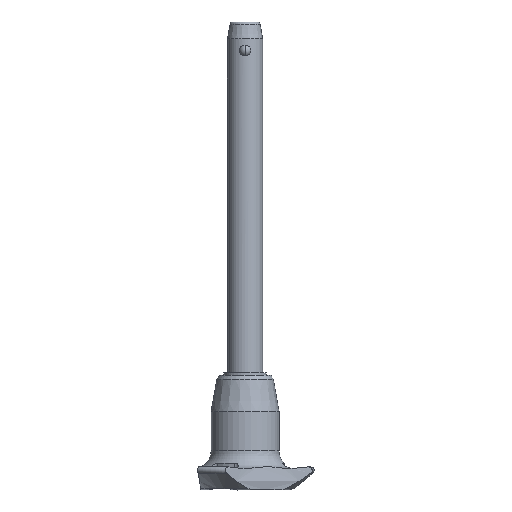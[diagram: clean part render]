
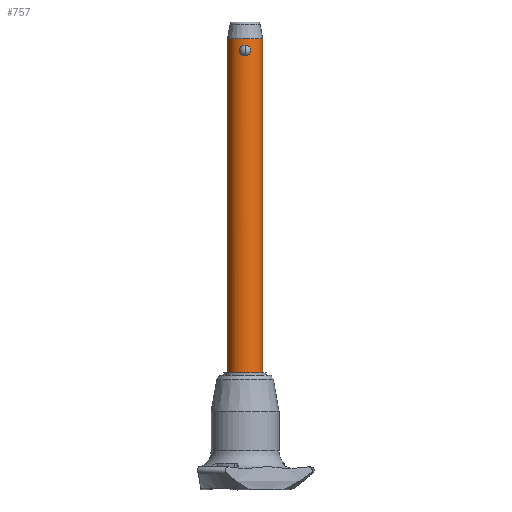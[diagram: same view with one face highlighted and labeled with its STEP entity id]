
A CAD part, front view. The second image highlights one B-rep face of the part: STEP entity #757.
In plain terms, the highlighted cylindrical face has radius 5 mm (diameter 10 mm), a partial arc.
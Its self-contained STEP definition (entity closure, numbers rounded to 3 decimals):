
#37 = DIRECTION ( 'NONE',  ( 0., 0., 1. ) ) ;
#74 = CARTESIAN_POINT ( 'NONE',  ( -1.604, -4.736, 1.724 ) ) ;
#102 = CARTESIAN_POINT ( 'NONE',  ( 0., -5., 3.033 ) ) ;
#105 = VERTEX_POINT ( 'NONE', #2223 ) ;
#106 = CARTESIAN_POINT ( 'NONE',  ( -0.966, -4.907, 0.296 ) ) ;
#109 = CARTESIAN_POINT ( 'NONE',  ( 0., -5., 0. ) ) ;
#129 = LINE ( 'NONE', #1825, #2242 ) ;
#136 = CARTESIAN_POINT ( 'NONE',  ( 0., -5., 3.033 ) ) ;
#169 = CARTESIAN_POINT ( 'NONE',  ( 1.604, -4.736, 1.308 ) ) ;
#191 = EDGE_CURVE ( 'NONE', #793, #2726, #1412, .T. ) ;
#245 = DIRECTION ( 'NONE',  ( 1., 0., 0. ) ) ;
#268 = DIRECTION ( 'NONE',  ( 1., 0., 0. ) ) ;
#296 = CARTESIAN_POINT ( 'NONE',  ( -1.604, -4.736, 1.416 ) ) ;
#321 = VECTOR ( 'NONE', #781, 1000. ) ;
#326 = CARTESIAN_POINT ( 'NONE',  ( 0.966, -4.907, 0.296 ) ) ;
#342 = CARTESIAN_POINT ( 'NONE',  ( 1.56, -4.751, 1.103 ) ) ;
#357 = CARTESIAN_POINT ( 'NONE',  ( -1.56, -4.751, 1.931 ) ) ;
#371 = CARTESIAN_POINT ( 'NONE',  ( 0.412, -4.987, 2.996 ) ) ;
#495 = VERTEX_POINT ( 'NONE', #498 ) ;
#498 = CARTESIAN_POINT ( 'NONE',  ( 0., -5., 0. ) ) ;
#533 = CARTESIAN_POINT ( 'NONE',  ( 0.7, -4.952, 2.888 ) ) ;
#543 = CIRCLE ( 'NONE', #1222, 5. ) ;
#552 = CARTESIAN_POINT ( 'NONE',  ( 0.699, -4.952, 0.144 ) ) ;
#567 = CARTESIAN_POINT ( 'NONE',  ( -1.272, -4.838, 0.564 ) ) ;
#571 = ORIENTED_EDGE ( 'NONE', *, *, #191, .F. ) ;
#582 = CARTESIAN_POINT ( 'NONE',  ( 1.272, -4.838, 2.47 ) ) ;
#678 = CARTESIAN_POINT ( 'NONE',  ( 0., 0., -90. ) ) ;
#728 = DIRECTION ( 'NONE',  ( 1., 0., 0. ) ) ;
#747 = CARTESIAN_POINT ( 'NONE',  ( 0.412, -4.987, 0.037 ) ) ;
#757 = ADVANCED_FACE ( 'NONE', ( #1532, #2131 ), #1293, .T. ) ;
#758 = ORIENTED_EDGE ( 'NONE', *, *, #1505, .T. ) ;
#780 = CARTESIAN_POINT ( 'NONE',  ( 1.434, -4.79, 0.822 ) ) ;
#781 = DIRECTION ( 'NONE',  ( 0., 0., 1. ) ) ;
#793 = VERTEX_POINT ( 'NONE', #1122 ) ;
#863 = B_SPLINE_CURVE_WITH_KNOTS ( 'NONE', 3,
 ( #109, #1199, #747, #552, #1833, #326, #2271, #2676, #971, #1600, #780, #342, #169, #1016, #2047, #1656, #1442, #984, #582, #2689, #956, #1002, #533, #371, #1186, #136 ),
 .UNSPECIFIED., .F., .F.,
 ( 4, 2, 2, 2, 2, 2, 2, 2, 2, 2, 2, 2, 4 ),
 ( 0.005, 0.006, 0.006, 0.006, 0.006, 0.007, 0.007, 0.008, 0.008, 0.009, 0.009, 0.009, 0.01 ),
 .UNSPECIFIED. ) ;
#864 = CARTESIAN_POINT ( 'NONE',  ( 0., 0., -90. ) ) ;
#896 = CIRCLE ( 'NONE', #2639, 5. ) ;
#924 = CARTESIAN_POINT ( 'NONE',  ( -1.594, -4.739, 1.312 ) ) ;
#937 = CARTESIAN_POINT ( 'NONE',  ( -1.047, -4.89, 2.676 ) ) ;
#956 = CARTESIAN_POINT ( 'NONE',  ( 0.966, -4.907, 2.738 ) ) ;
#971 = CARTESIAN_POINT ( 'NONE',  ( 1.265, -4.838, 0.57 ) ) ;
#984 = CARTESIAN_POINT ( 'NONE',  ( 1.395, -4.802, 2.301 ) ) ;
#1002 = CARTESIAN_POINT ( 'NONE',  ( 0.792, -4.938, 2.844 ) ) ;
#1016 = CARTESIAN_POINT ( 'NONE',  ( 1.604, -4.736, 1.619 ) ) ;
#1027 = ORIENTED_EDGE ( 'NONE', *, *, #1163, .F. ) ;
#1122 = CARTESIAN_POINT ( 'NONE',  ( -5., 0., -90. ) ) ;
#1149 = CARTESIAN_POINT ( 'NONE',  ( -0.792, -4.938, 0.19 ) ) ;
#1163 = EDGE_CURVE ( 'NONE', #105, #793, #896, .T. ) ;
#1186 = CARTESIAN_POINT ( 'NONE',  ( 0.208, -5., 3.033 ) ) ;
#1199 = CARTESIAN_POINT ( 'NONE',  ( 0.205, -5., 0. ) ) ;
#1222 = AXIS2_PLACEMENT_3D ( 'NONE', #1437, #1581, #728 ) ;
#1293 = CYLINDRICAL_SURFACE ( 'NONE', #2562, 5. ) ;
#1391 = CARTESIAN_POINT ( 'NONE',  ( -1.394, -4.802, 0.731 ) ) ;
#1412 = LINE ( 'NONE', #1834, #321 ) ;
#1425 = CARTESIAN_POINT ( 'NONE',  ( -0.412, -4.987, 2.997 ) ) ;
#1437 = CARTESIAN_POINT ( 'NONE',  ( 0., 0., 4.8 ) ) ;
#1439 = VERTEX_POINT ( 'NONE', #2627 ) ;
#1442 = CARTESIAN_POINT ( 'NONE',  ( 1.519, -4.764, 2.021 ) ) ;
#1505 = EDGE_CURVE ( 'NONE', #1439, #2726, #543, .T. ) ;
#1508 = VERTEX_POINT ( 'NONE', #102 ) ;
#1532 = FACE_OUTER_BOUND ( 'NONE', #2588, .T. ) ;
#1567 = CARTESIAN_POINT ( 'NONE',  ( -1.519, -4.764, 1.013 ) ) ;
#1581 = DIRECTION ( 'NONE',  ( 0., 0., -1. ) ) ;
#1585 = CARTESIAN_POINT ( 'NONE',  ( -1.435, -4.79, 2.209 ) ) ;
#1600 = CARTESIAN_POINT ( 'NONE',  ( 1.384, -4.805, 0.735 ) ) ;
#1630 = CARTESIAN_POINT ( 'NONE',  ( -1.383, -4.805, 2.299 ) ) ;
#1656 = CARTESIAN_POINT ( 'NONE',  ( 1.551, -4.753, 1.922 ) ) ;
#1768 = ORIENTED_EDGE ( 'NONE', *, *, #1841, .T. ) ;
#1773 = CARTESIAN_POINT ( 'NONE',  ( -1.551, -4.753, 1.11 ) ) ;
#1787 = CARTESIAN_POINT ( 'NONE',  ( -0.205, -5., 0. ) ) ;
#1818 = CARTESIAN_POINT ( 'NONE',  ( -0.699, -4.952, 0.145 ) ) ;
#1825 = CARTESIAN_POINT ( 'NONE',  ( 5., 0., -90. ) ) ;
#1833 = CARTESIAN_POINT ( 'NONE',  ( 0.792, -4.938, 0.19 ) ) ;
#1834 = CARTESIAN_POINT ( 'NONE',  ( -5., 0., -90. ) ) ;
#1841 = EDGE_CURVE ( 'NONE', #105, #1439, #129, .T. ) ;
#1883 = ORIENTED_EDGE ( 'NONE', *, *, #2030, .F. ) ;
#1983 = CARTESIAN_POINT ( 'NONE',  ( -0.412, -4.987, 0.037 ) ) ;
#1998 = CARTESIAN_POINT ( 'NONE',  ( -0.965, -4.907, 2.738 ) ) ;
#2012 = CARTESIAN_POINT ( 'NONE',  ( -0.208, -5., 3.033 ) ) ;
#2030 = EDGE_CURVE ( 'NONE', #495, #1508, #863, .T. ) ;
#2046 = CARTESIAN_POINT ( 'NONE',  ( 0., -5., 3.033 ) ) ;
#2047 = CARTESIAN_POINT ( 'NONE',  ( 1.594, -4.739, 1.721 ) ) ;
#2100 = ORIENTED_EDGE ( 'NONE', *, *, #2701, .F. ) ;
#2131 = FACE_BOUND ( 'NONE', #2279, .T. ) ;
#2141 = DIRECTION ( 'NONE',  ( 0., 0., -1. ) ) ;
#2223 = CARTESIAN_POINT ( 'NONE',  ( 5., 0., -90. ) ) ;
#2242 = VECTOR ( 'NONE', #2505, 1000. ) ;
#2257 = CARTESIAN_POINT ( 'NONE',  ( -1.197, -4.855, 2.539 ) ) ;
#2270 = CARTESIAN_POINT ( 'NONE',  ( -0.7, -4.952, 2.888 ) ) ;
#2271 = CARTESIAN_POINT ( 'NONE',  ( 1.047, -4.89, 0.356 ) ) ;
#2279 = EDGE_LOOP ( 'NONE', ( #2100, #1883 ) ) ;
#2301 = B_SPLINE_CURVE_WITH_KNOTS ( 'NONE', 3,
 ( #2046, #2012, #1425, #2270, #2466, #1998, #937, #2257, #2484, #1630, #1585, #357, #74, #296, #924, #1773, #1567, #1391, #567, #2452, #106, #1149, #1818, #1983, #1787, #2675 ),
 .UNSPECIFIED., .F., .F.,
 ( 4, 2, 2, 2, 2, 2, 2, 2, 2, 2, 2, 2, 4 ),
 ( 0., 0.001, 0.001, 0.001, 0.002, 0.002, 0.002, 0.003, 0.003, 0.004, 0.004, 0.004, 0.005 ),
 .UNSPECIFIED. ) ;
#2452 = CARTESIAN_POINT ( 'NONE',  ( -1.047, -4.89, 0.357 ) ) ;
#2466 = CARTESIAN_POINT ( 'NONE',  ( -0.791, -4.938, 2.844 ) ) ;
#2484 = CARTESIAN_POINT ( 'NONE',  ( -1.264, -4.838, 2.464 ) ) ;
#2505 = DIRECTION ( 'NONE',  ( 0., 0., 1. ) ) ;
#2562 = AXIS2_PLACEMENT_3D ( 'NONE', #678, #37, #268 ) ;
#2588 = EDGE_LOOP ( 'NONE', ( #571, #1027, #1768, #758 ) ) ;
#2627 = CARTESIAN_POINT ( 'NONE',  ( 5., 0., 4.8 ) ) ;
#2639 = AXIS2_PLACEMENT_3D ( 'NONE', #864, #2141, #245 ) ;
#2646 = CARTESIAN_POINT ( 'NONE',  ( -5., 0., 4.8 ) ) ;
#2675 = CARTESIAN_POINT ( 'NONE',  ( 0., -5., 0. ) ) ;
#2676 = CARTESIAN_POINT ( 'NONE',  ( 1.196, -4.855, 0.493 ) ) ;
#2689 = CARTESIAN_POINT ( 'NONE',  ( 1.048, -4.889, 2.676 ) ) ;
#2701 = EDGE_CURVE ( 'NONE', #1508, #495, #2301, .T. ) ;
#2726 = VERTEX_POINT ( 'NONE', #2646 ) ;
